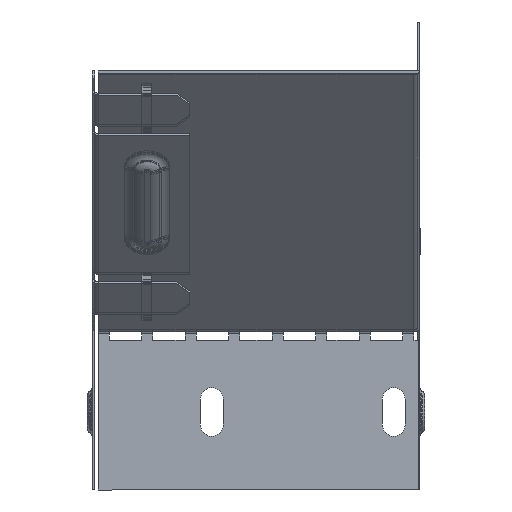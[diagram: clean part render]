
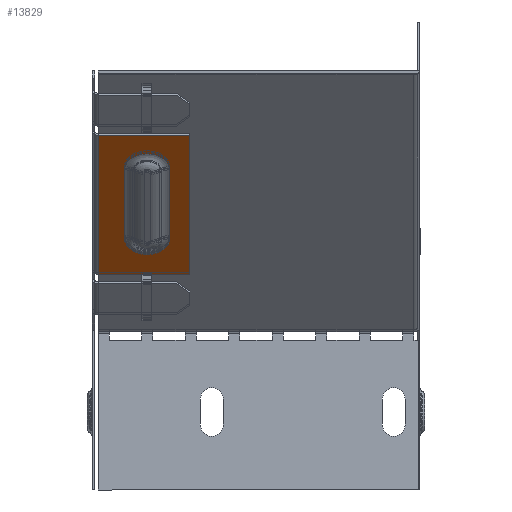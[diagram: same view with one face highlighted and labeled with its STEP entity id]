
A CAD part, left-side view. The second image highlights one B-rep face of the part: STEP entity #13829.
In plain terms, the highlighted planar face has unit normal (-0.707, 0, -0.707).
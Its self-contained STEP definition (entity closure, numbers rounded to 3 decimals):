
#122 = VECTOR ( 'NONE', #17661, 1000. ) ;
#390 = EDGE_LOOP ( 'NONE', ( #21684, #10618, #2891, #17999 ) ) ;
#571 = CARTESIAN_POINT ( 'NONE',  ( -311.823, 98.2, -34.855 ) ) ;
#726 = DIRECTION ( 'NONE',  ( -0.707, 0., 0.707 ) ) ;
#732 = VECTOR ( 'NONE', #18731, 1000. ) ;
#1221 = EDGE_CURVE ( 'NONE', #5368, #11606, #18447, .T. ) ;
#1249 = CARTESIAN_POINT ( 'NONE',  ( -279.993, 76.183, -66.685 ) ) ;
#1329 = ORIENTED_EDGE ( 'NONE', *, *, #7698, .T. ) ;
#1358 = DIRECTION ( 'NONE',  ( -0.707, 0., 0.707 ) ) ;
#1434 = VERTEX_POINT ( 'NONE', #15100 ) ;
#1465 = CIRCLE ( 'NONE', #22974, 6.917 ) ;
#2891 = ORIENTED_EDGE ( 'NONE', *, *, #16895, .T. ) ;
#3141 = ORIENTED_EDGE ( 'NONE', *, *, #1221, .T. ) ;
#3534 = CARTESIAN_POINT ( 'NONE',  ( -301.206, 90.017, -45.472 ) ) ;
#5368 = VERTEX_POINT ( 'NONE', #3534 ) ;
#6205 = LINE ( 'NONE', #23345, #122 ) ;
#6837 = VERTEX_POINT ( 'NONE', #571 ) ;
#7197 = DIRECTION ( 'NONE',  ( 0.5, -0.707, -0.5 ) ) ;
#7410 = DIRECTION ( 'NONE',  ( 0.5, -0.707, -0.5 ) ) ;
#7551 = VECTOR ( 'NONE', #1358, 1000. ) ;
#7698 = EDGE_CURVE ( 'NONE', #9099, #5368, #12536, .T. ) ;
#8335 = VECTOR ( 'NONE', #12924, 1000. ) ;
#8925 = CARTESIAN_POINT ( 'NONE',  ( -301.206, 83.1, -45.472 ) ) ;
#9099 = VERTEX_POINT ( 'NONE', #10624 ) ;
#9155 = DIRECTION ( 'NONE',  ( 0.707, 0., 0.707 ) ) ;
#9173 = ORIENTED_EDGE ( 'NONE', *, *, #14980, .T. ) ;
#9398 = EDGE_CURVE ( 'NONE', #20197, #9099, #1465, .T. ) ;
#10026 = CARTESIAN_POINT ( 'NONE',  ( -301.206, 76.183, -45.472 ) ) ;
#10618 = ORIENTED_EDGE ( 'NONE', *, *, #12694, .T. ) ;
#10624 = CARTESIAN_POINT ( 'NONE',  ( -279.993, 90.017, -66.685 ) ) ;
#10877 = PLANE ( 'NONE',  #18506 ) ;
#10953 = DIRECTION ( 'NONE',  ( 0.707, 0., -0.707 ) ) ;
#11069 = CARTESIAN_POINT ( 'NONE',  ( -269.022, 70., -77.656 ) ) ;
#11606 = VERTEX_POINT ( 'NONE', #10026 ) ;
#11968 = EDGE_CURVE ( 'NONE', #1434, #6837, #13848, .T. ) ;
#12536 = LINE ( 'NONE', #21774, #7551 ) ;
#12694 = EDGE_CURVE ( 'NONE', #1434, #21802, #6205, .T. ) ;
#12773 = AXIS2_PLACEMENT_3D ( 'NONE', #8925, #18368, #7197 ) ;
#12906 = FACE_OUTER_BOUND ( 'NONE', #390, .T. ) ;
#12924 = DIRECTION ( 'NONE',  ( 0., 1., 0. ) ) ;
#13369 = CARTESIAN_POINT ( 'NONE',  ( -311.823, 70., -34.855 ) ) ;
#13829 = ADVANCED_FACE ( 'NONE', ( #14919, #12906 ), #10877, .F. ) ;
#13848 = LINE ( 'NONE', #22755, #24005 ) ;
#14919 = FACE_BOUND ( 'NONE', #20188, .T. ) ;
#14957 = VERTEX_POINT ( 'NONE', #13369 ) ;
#14980 = EDGE_CURVE ( 'NONE', #11606, #20197, #19817, .T. ) ;
#15100 = CARTESIAN_POINT ( 'NONE',  ( -269.022, 98.2, -77.656 ) ) ;
#16329 = EDGE_CURVE ( 'NONE', #14957, #6837, #20571, .T. ) ;
#16409 = DIRECTION ( 'NONE',  ( 0.707, 0., 0.707 ) ) ;
#16788 = CARTESIAN_POINT ( 'NONE',  ( -279.993, 76.183, -66.685 ) ) ;
#16895 = EDGE_CURVE ( 'NONE', #21802, #14957, #21112, .T. ) ;
#17496 = VECTOR ( 'NONE', #22393, 1000. ) ;
#17661 = DIRECTION ( 'NONE',  ( 0., -1., 0. ) ) ;
#17999 = ORIENTED_EDGE ( 'NONE', *, *, #16329, .T. ) ;
#18368 = DIRECTION ( 'NONE',  ( 0.707, 0., 0.707 ) ) ;
#18447 = CIRCLE ( 'NONE', #12773, 6.917 ) ;
#18506 = AXIS2_PLACEMENT_3D ( 'NONE', #20405, #16409, #10953 ) ;
#18731 = DIRECTION ( 'NONE',  ( -0.707, 0., 0.707 ) ) ;
#19817 = LINE ( 'NONE', #16788, #17496 ) ;
#20154 = ORIENTED_EDGE ( 'NONE', *, *, #9398, .T. ) ;
#20188 = EDGE_LOOP ( 'NONE', ( #9173, #20154, #1329, #3141 ) ) ;
#20197 = VERTEX_POINT ( 'NONE', #1249 ) ;
#20405 = CARTESIAN_POINT ( 'NONE',  ( -165.837, 100., -180.841 ) ) ;
#20571 = LINE ( 'NONE', #22036, #8335 ) ;
#21112 = LINE ( 'NONE', #24030, #732 ) ;
#21684 = ORIENTED_EDGE ( 'NONE', *, *, #11968, .F. ) ;
#21774 = CARTESIAN_POINT ( 'NONE',  ( -279.993, 90.017, -66.685 ) ) ;
#21802 = VERTEX_POINT ( 'NONE', #11069 ) ;
#22036 = CARTESIAN_POINT ( 'NONE',  ( -311.823, 70., -34.855 ) ) ;
#22393 = DIRECTION ( 'NONE',  ( 0.707, 0., -0.707 ) ) ;
#22403 = CARTESIAN_POINT ( 'NONE',  ( -279.993, 83.1, -66.685 ) ) ;
#22755 = CARTESIAN_POINT ( 'NONE',  ( -328.087, 98.2, -18.591 ) ) ;
#22974 = AXIS2_PLACEMENT_3D ( 'NONE', #22403, #9155, #7410 ) ;
#23345 = CARTESIAN_POINT ( 'NONE',  ( -269.022, 70., -77.656 ) ) ;
#24005 = VECTOR ( 'NONE', #726, 1000. ) ;
#24030 = CARTESIAN_POINT ( 'NONE',  ( -165.837, 70., -180.841 ) ) ;
